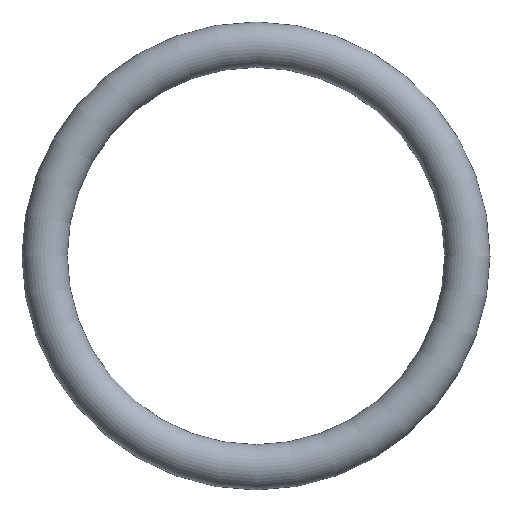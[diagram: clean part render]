
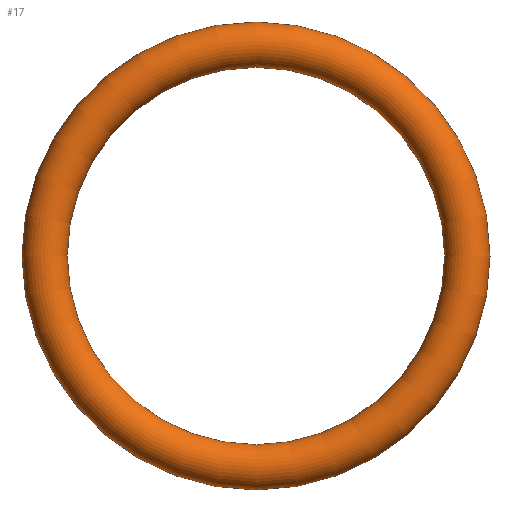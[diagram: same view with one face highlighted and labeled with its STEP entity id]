
A CAD part, top view. The second image highlights one B-rep face of the part: STEP entity #17.
In plain terms, the highlighted toroidal (fillet/blend) face has major radius 7 mm and minor radius 0.75 mm.
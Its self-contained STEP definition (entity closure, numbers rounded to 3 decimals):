
#17 = ADVANCED_FACE('',(#18),#38,.T.);
#18 = FACE_BOUND('',#19,.T.);
#19 = EDGE_LOOP('',(#20,#29,#36,#37));
#20 = ORIENTED_EDGE('',*,*,#21,.F.);
#21 = EDGE_CURVE('',#22,#22,#24,.T.);
#22 = VERTEX_POINT('',#23);
#23 = CARTESIAN_POINT('',(7.75,0.,0.)
  );
#24 = CIRCLE('',#25,7.75);
#25 = AXIS2_PLACEMENT_3D('',#26,#27,#28);
#26 = CARTESIAN_POINT('',(0.,0.,0.));
#27 = DIRECTION('',(0.,0.,1.));
#28 = DIRECTION('',(1.,0.,0.));
#29 = ORIENTED_EDGE('',*,*,#30,.F.);
#30 = EDGE_CURVE('',#22,#22,#31,.T.);
#31 = CIRCLE('',#32,0.75);
#32 = AXIS2_PLACEMENT_3D('',#33,#34,#35);
#33 = CARTESIAN_POINT('',(7.,0.,0.));
#34 = DIRECTION('',(0.,-1.,0.));
#35 = DIRECTION('',(1.,0.,0.));
#36 = ORIENTED_EDGE('',*,*,#21,.T.);
#37 = ORIENTED_EDGE('',*,*,#30,.T.);
#38 = TOROIDAL_SURFACE('',#39,7.,0.75);
#39 = AXIS2_PLACEMENT_3D('',#40,#41,#42);
#40 = CARTESIAN_POINT('',(0.,0.,0.));
#41 = DIRECTION('',(0.,0.,1.));
#42 = DIRECTION('',(1.,0.,0.));
